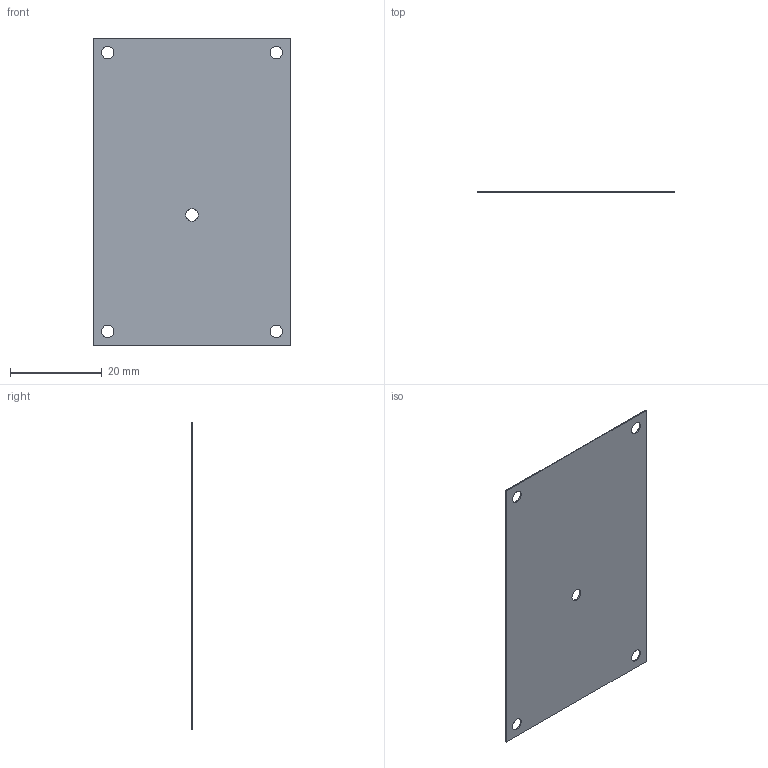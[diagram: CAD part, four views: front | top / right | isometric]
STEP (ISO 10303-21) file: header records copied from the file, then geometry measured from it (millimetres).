
FILE_DESCRIPTION((''),'2;1');
FILE_NAME('ESCON2_60-30_THERMAL-INSULATOR','2024-02-26T13:44:41',('MMAGMMA'),(''),'CREO PARAMETRIC BY PTC INC, 2022484','CREO PARAMETRIC BY PTC INC, 2022484','');
FILE_SCHEMA(('CONFIG_CONTROL_DESIGN','SHAPE_APPEARANCE_LAYERS_GROUPS'));
Length unit declared in the file: millimetre
Products named in the file (1): ESCON2_60-30_THERMAL-INSULATOR
Bounding box: 43 x 0.23 x 67 mm (x, y, z)
Volume: 656 mm3; surface area: 5765.1 mm2
Topology: 1 solids, 1 shells, 16 faces, 42 edges, 28 vertices
Faces by surface type: cylinder 10, plane 6
Entity records: 780 total; most frequent: DIRECTION 94, CARTESIAN_POINT 86, ORIENTED_EDGE 84, COLOUR_RGB 61, PRESENTATION_STYLE_ASSIGNMENT 44, STYLED_ITEM 43, CURVE_STYLE 42, EDGE_CURVE 42
